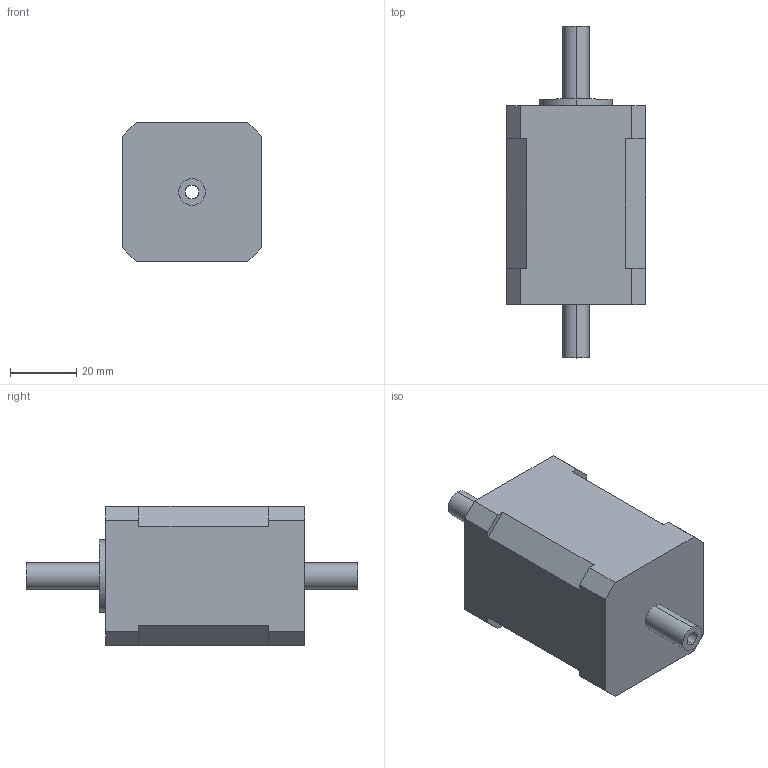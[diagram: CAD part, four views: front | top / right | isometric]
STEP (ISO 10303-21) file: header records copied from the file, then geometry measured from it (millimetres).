
FILE_DESCRIPTION (( 'STEP AP214' ), '1' );
FILE_NAME ('42HS60-GC0824-013.STEP', '2021-01-20T06:33:22', ( '' ), ( '' ), 'SwSTEP 2.0', 'SolidWorks 2020', '' );
FILE_SCHEMA (( 'AUTOMOTIVE_DESIGN' ));
Length unit declared in the file: millimetre
Products named in the file (1): 42HS60-GC0824-013
Bounding box: 42 x 100 x 42 mm (x, y, z)
Volume: 101815.8 mm3; surface area: 17405.4 mm2
Topology: 1 solids, 1 shells, 57 faces, 136 edges, 88 vertices
Faces by surface type: plane 33, cylinder 20, cone 4
Entity records: 1728 total; most frequent: DIRECTION 292, CARTESIAN_POINT 282, ORIENTED_EDGE 272, EDGE_CURVE 136, AXIS2_PLACEMENT_3D 98, VECTOR 96, LINE 96, VERTEX_POINT 88
